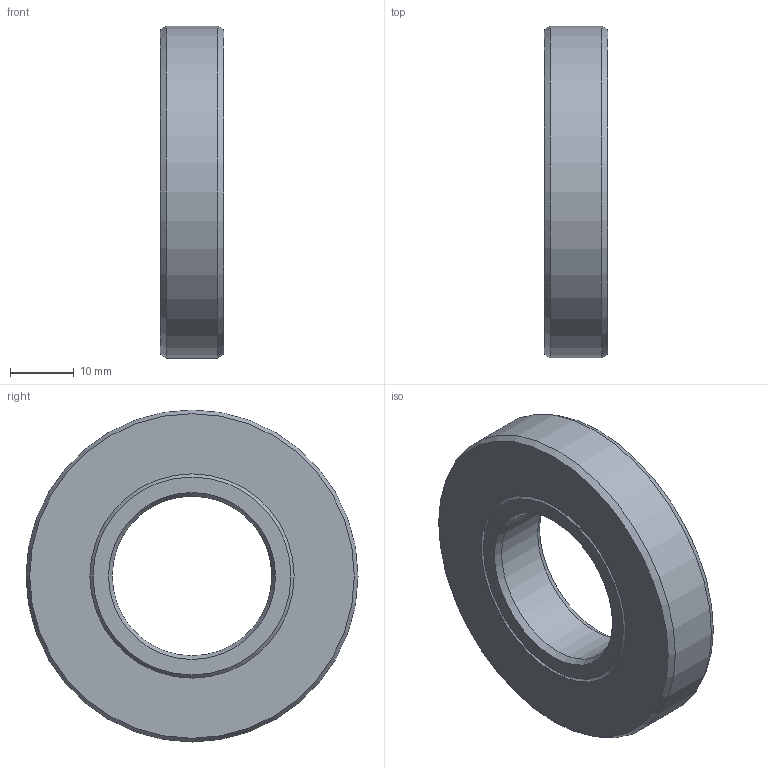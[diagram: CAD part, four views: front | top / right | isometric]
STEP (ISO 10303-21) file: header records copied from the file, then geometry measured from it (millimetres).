
FILE_DESCRIPTION(/* description */ (''),/* implementation_level */ '2;1');
FILE_NAME(/* name */ '301524 S25x52x10.stp',/* time_stamp */ '2016-12-16T13:30:06+01:00',/* author */ (''),/* organization */ (''),/* preprocessor_version */ 'ST-DEVELOPER v15',/* originating_system */ 'SIEMENS PLM Software NX 8.5',/* authorisation */ '');
FILE_SCHEMA (('CONFIG_CONTROL_DESIGN'));
Length unit declared in the file: millimetre
Products named in the file (1): ATE0000143_01
Bounding box: 10 x 52 x 52 mm (x, y, z)
Volume: 15617.1 mm3; surface area: 8156.5 mm2
Topology: 2 solids, 2 shells, 16 faces, 30 edges, 18 vertices
Faces by surface type: cone 10, plane 4, cylinder 2
Full cylindrical faces by diameter (mm): 25 x1, 52 x1
Entity records: 414 total; most frequent: DIRECTION 66, CARTESIAN_POINT 49, AXIS2_PLACEMENT_3D 33, FACE_BOUND 32, EDGE_LOOP 32, ORIENTED_EDGE 32, ADVANCED_FACE 16, VERTEX_POINT 16
